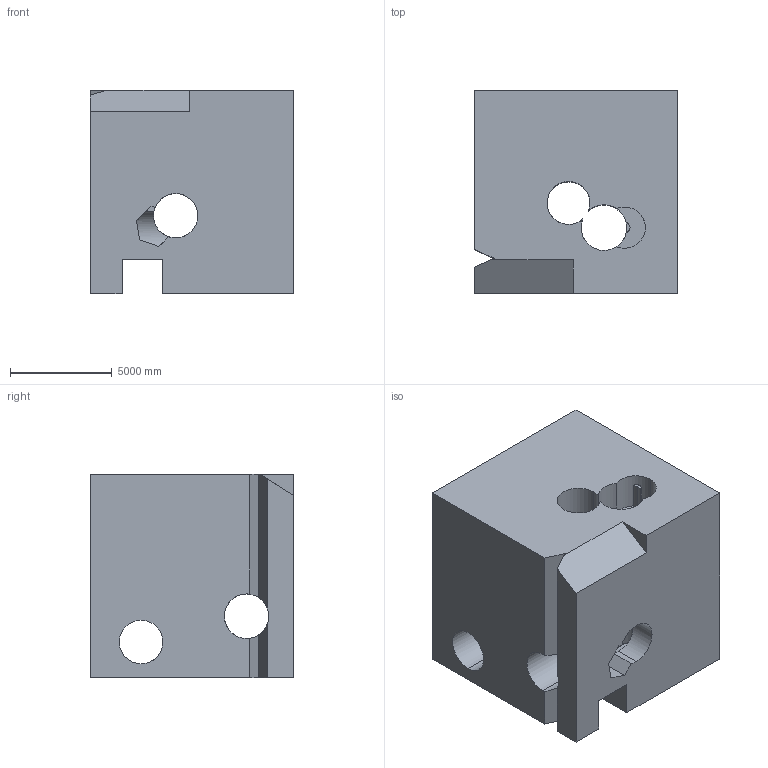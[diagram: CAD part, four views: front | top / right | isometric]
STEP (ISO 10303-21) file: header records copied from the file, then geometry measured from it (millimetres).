
FILE_DESCRIPTION (( 'STEP AP203' ), '1' );
FILE_NAME ('1991.STEP', '2022-08-23T10:21:06', ( 'user' ), ( '' ), 'SwSTEP 2.0', 'SolidWorks 2021', '' );
FILE_SCHEMA (( 'CONFIG_CONTROL_DESIGN' ));
Length unit declared in the file: centimetre
Products named in the file (1): 1991
Bounding box: 10000 x 10000 x 10000 mm (x, y, z)
Volume: 785142672871.6 mm3; surface area: 869133877.1 mm2
Topology: 1 solids, 1 shells, 48 faces, 171 edges, 114 vertices
Faces by surface type: plane 26, cylinder 22
Entity records: 3531 total; most frequent: CARTESIAN_POINT 1996, ORIENTED_EDGE 342, DIRECTION 276, EDGE_CURVE 171, VERTEX_POINT 114, AXIS2_PLACEMENT_3D 93, VECTOR 90, LINE 90
